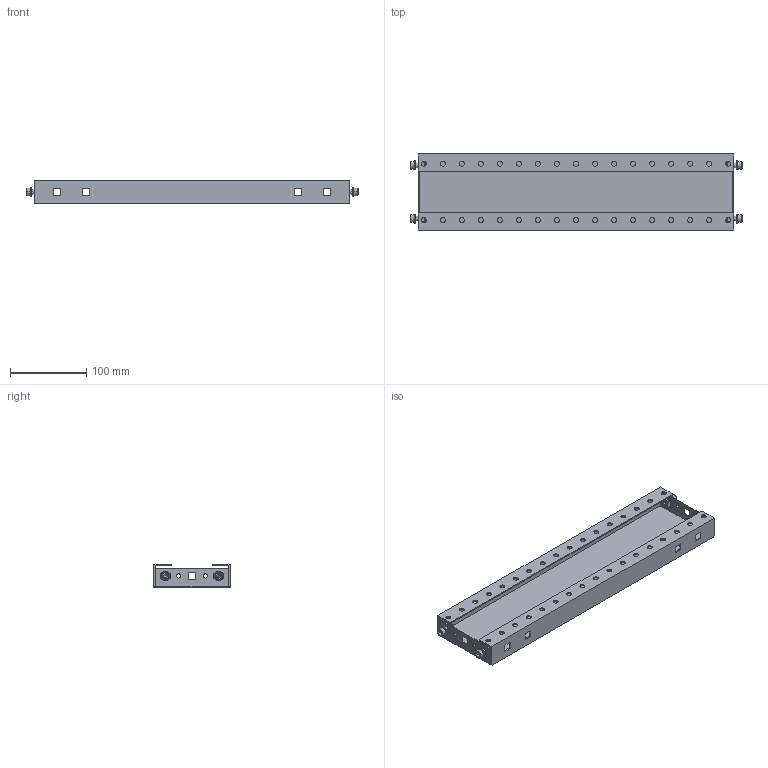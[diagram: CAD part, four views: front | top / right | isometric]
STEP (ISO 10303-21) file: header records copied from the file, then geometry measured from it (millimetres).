
FILE_DESCRIPTION(('Open CASCADE Model'),'2;1');
FILE_NAME('Open CASCADE Shape Model','2025-02-07T17:53:32',('Author'),( 'Open CASCADE'),'Open CASCADE STEP processor 7.8','Open CASCADE 7.8' ,'Unknown');
FILE_SCHEMA(('AUTOMOTIVE_DESIGN { 1 0 10303 214 1 1 1 1 }'));
Length unit declared in the file: millimetre
Products named in the file (5): Compound1; Solid1; Solid2; Solid3; Solid4
Assembly tree (13 placements, depth 2):
  Compound1
    Solid1
    Solid2  x4
    Solid3  x4
    Solid4  x4
Bounding box: 436.2 x 100 x 30 mm (x, y, z)
Volume: 133222.9 mm3; surface area: 181150.6 mm2
Topology: 13 solids, 13 shells, 720 faces, 2006 edges, 1304 vertices
Faces by surface type: plane 378, cylinder 278, cone 32, bspline 16, torus 16
Full cylindrical faces by diameter (mm): 5.5 x4, 6.5 x34
Entity records: 23083 total; most frequent: CARTESIAN_POINT 15437, ORIENTED_EDGE 1620, DIRECTION 1452, EDGE_CURVE 810, VERTEX_POINT 533, LINE 494, VECTOR 494, AXIS2_PLACEMENT_3D 479
